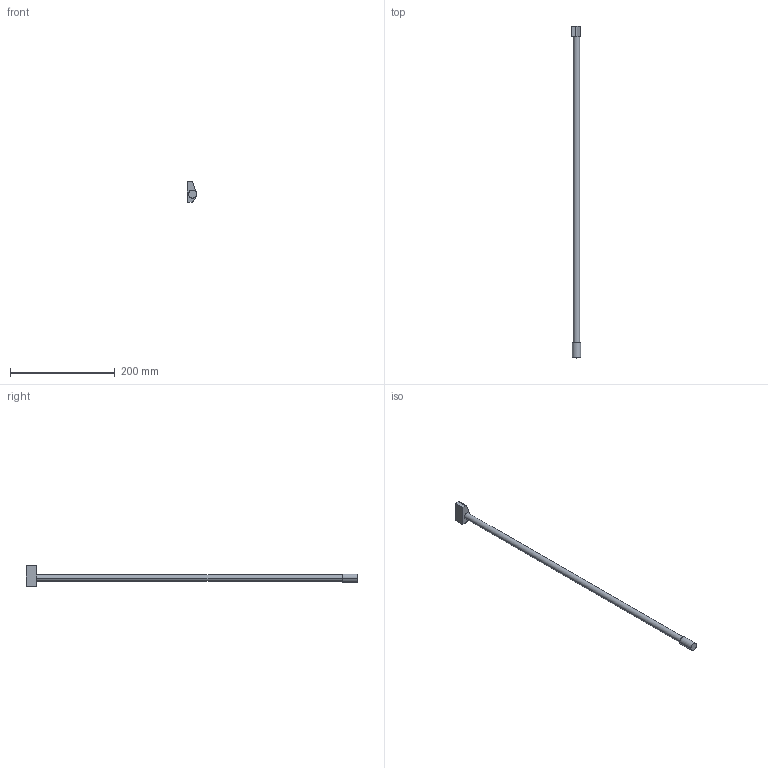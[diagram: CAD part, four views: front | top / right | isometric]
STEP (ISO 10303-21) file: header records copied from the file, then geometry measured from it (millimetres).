
FILE_DESCRIPTION (( 'STEP AP214' ), '1' );
FILE_NAME ('DWD-XP-Anschraubreling _NL-650_rechts.step', '2010-09-27T06:30:47', ( 'grass' ), ( '' ), 'SwSTEP 2.0', 'SolidWorks 2010', '' );
FILE_SCHEMA (( 'AUTOMOTIVE_DESIGN' ));
Length unit declared in the file: millimetre
Products named in the file (1): DWD-XP-Anschraubreling _NL-650_rechts
Bounding box: 18 x 634.3 x 40.1 mm (x, y, z)
Volume: 83288.4 mm3; surface area: 26846.8 mm2
Topology: 1 solids, 1 shells, 17 faces, 39 edges, 26 vertices
Faces by surface type: plane 9, cylinder 8
Entity records: 523 total; most frequent: DIRECTION 91, CARTESIAN_POINT 83, ORIENTED_EDGE 78, EDGE_CURVE 39, AXIS2_PLACEMENT_3D 34, VERTEX_POINT 26, LINE 23, VECTOR 23
